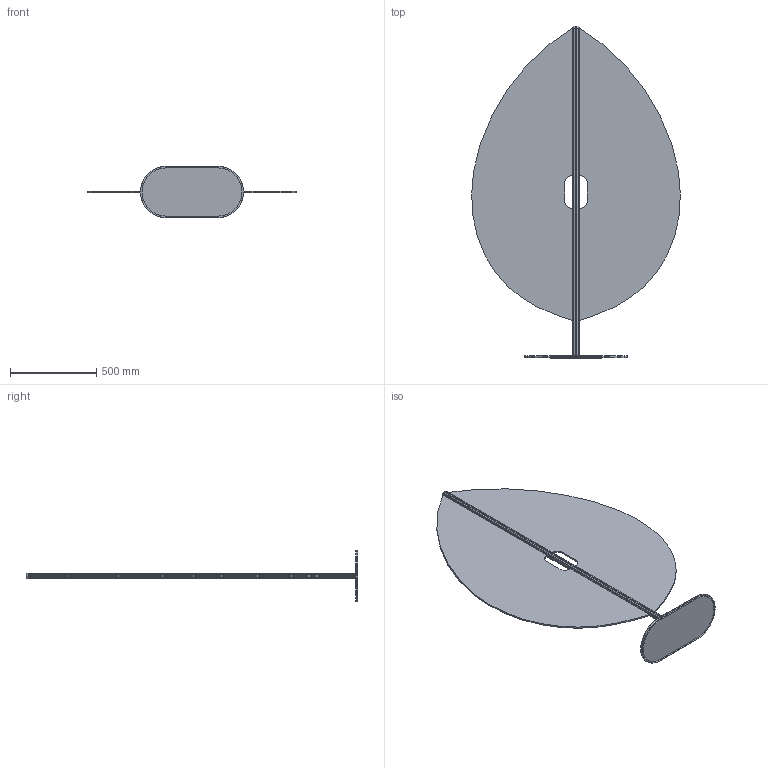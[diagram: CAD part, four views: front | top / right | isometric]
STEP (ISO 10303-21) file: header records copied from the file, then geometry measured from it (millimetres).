
FILE_DESCRIPTION (( 'STEP AP214' ), '1' );
FILE_NAME ('EVA_DEVELOPMENT2 LAST.STEP', '2021-11-10T16:40:03', ( '' ), ( '' ), 'SwSTEP 2.0', 'SolidWorks 2016', '' );
FILE_SCHEMA (( 'AUTOMOTIVE_DESIGN' ));
Length unit declared in the file: millimetre
Products named in the file (1): EVA_DEVELOPMENT2 LAST
Bounding box: 1211.5 x 1927 x 300 mm (x, y, z)
Volume: 14176567.4 mm3; surface area: 4198239 mm2
Topology: 9 solids, 9 shells, 175 faces, 445 edges, 290 vertices
Faces by surface type: plane 90, cylinder 65, cone 16, torus 2, bspline 2
Entity records: 5537 total; most frequent: CARTESIAN_POINT 969, DIRECTION 937, ORIENTED_EDGE 890, EDGE_CURVE 445, AXIS2_PLACEMENT_3D 322, VECTOR 293, LINE 293, VERTEX_POINT 290
